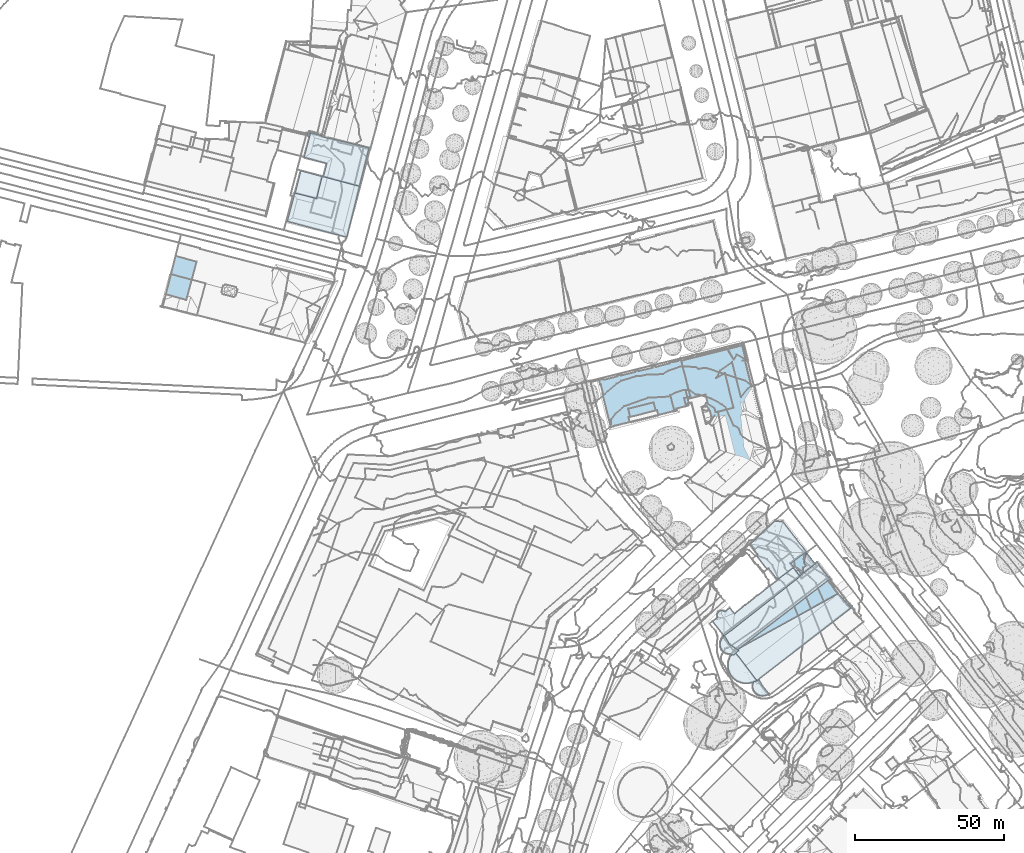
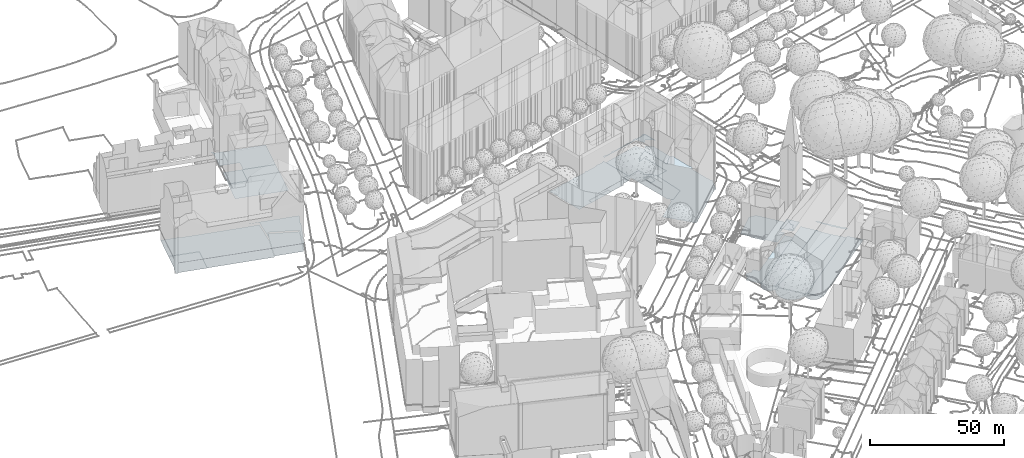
# Not in any storey, part 4 of 494: 9 footings.
"""IFC2X3 model written with IfcOpenShell, lengths in metres."""

from ifc_helpers import new_model, si_unit, frame, origin_with_axes, place, context, subcontext, project, faceted_brep, element, save


model = new_model("IFC2X3")

# Units and contexts
model_context = context("Model", 3, precision=1e-05, world=origin_with_axes())
body_context = subcontext(model_context, "Body", "Model", "MODEL_VIEW")
ifc_project = project(units=[si_unit("AREAUNIT", "SQUARE_METRE"), si_unit("LENGTHUNIT", "METRE")], contexts=[model_context])

# Footings
footing_1_placement = place(None, frame((124.1537320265, 278.7713160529, 533.7988), z_axis=(0.0, 0.0, 1.0), x_axis=(1.0, 0.0, 0.0)))
element("IfcFooting", 1, at=footing_1_placement, Name="Floor 0", PredefinedType="STRIP_FOOTING", context=body_context, shape_type="Brep", body=[
    faceted_brep([(25.8590000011, 22.1904000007, 0.0), (25.9250000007, 21.9228999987, 0.0), (25.3029999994, 21.7685999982, 0.0), (25.2870000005, 23.4228000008, 0.0), (25.5379999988, 23.4844000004, 0.0), (25.061999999, 21.7089999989, 0.0), (16.3480000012, 25.2978000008, 0.0), (25.1449999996, 21.3720999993, 0.0), (28.194000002, 11.5429999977, 0.0), (28.1480000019, 11.3887000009, 0.0), (28.050999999, 11.6074000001, 0.0), (26.3920000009, 5.4472999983, 0.0), (25.8729999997, 5.6015999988, 0.0), (26.4330000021, 5.5878999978, 0.0), (27.6420000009, 11.7881000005, 0.0), (27.6339999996, 11.817400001, 0.0), (27.1799999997, 13.1367000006, 0.0), (27.2969999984, 13.1669999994, 0.0), (24.6689000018, 4.6240999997, -0.0001), (11.6229999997, 11.0702999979, 0.0), (23.2699999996, 32.6308999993, 0.0), (22.3310000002, 32.4833999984, 0.0), (23.25, 32.7100000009, 0.0), (23.3920000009, 31.0936999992, 0.0), (23.6359999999, 31.1532999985, 0.0), (21.1400000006, 31.8506000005, 0.0), (18.7740000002, 28.9307000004, 0.0), (13.4299999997, 36.9188999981, 0.0), (15.8280000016, 40.6669999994, 0.0), (22.2650000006, 32.7509999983, 0.0), (11.8619999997, 37.8427999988, 0.0), (9.9919999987, 25.1123000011, 0.0), (8.3839999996, 24.2577999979, 0.0), (7.9239999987, 25.0429999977, 0.0), (10.324000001, 23.7841999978, 0.0), (9.8839999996, 22.6532999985, 0.0), (7.4180000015, 25.6347999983, 0.0), (10.4750000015, 35.365199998, 0.0), (6.8790000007, 25.9501999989, 0.0), (7.0700000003, 26.8691000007, 0.0), (6.3269999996, 25.8104999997, 0.0), (25.7080000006, 5.4492000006, 0.0), (25.6669000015, 5.4101999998, 0.0), (24.7369999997, 4.5517999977, 0.0), (10.3370000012, -8.6592000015, 0.0), (1.0989999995, 0.8583999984, 0.0), (7.9499999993, 7.192400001, 0.0), (10.4050000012, -8.7324000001, 0.0), (9.2769999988, -9.7675999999, 0.0), (9.0230000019, -9.4922000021, 0.0), (8.8770000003, -9.6279000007, 0.0), (0.0, 0.0, 0.0), (8.6400000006, 20.7793000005, 0.0), (8.8220000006, 21.4697000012, 0.0), (8.9629999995, 19.3300999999, 0.0), (7.7589999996, 20.1035000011, 0.0), (8.313000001, 20.2421999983, 0.0), (9.5139999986, 19.4697000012, 0.0), (8.6090000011, 23.3544999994, 0.0), (8.8500000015, 22.3935000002, 0.0), (0.4059999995, 0.371100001, 0.0), (1.0260000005, 0.9375, 0.0), (7.6840000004, 7.4794999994, 0.0), (25.7569999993, 5.4932000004, 0.0), (6.0500000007, 23.6708999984, 0.8999), (8.3839999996, 24.2577999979, 0.8999), (6.5179999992, 21.808600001, 0.8999), (8.8220000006, 21.4697000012, 0.8999), (6.7340000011, 20.9452999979, 0.8999), (5.8379999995, 24.5194999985, 0.8999), (8.8500000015, 22.3935000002, 0.8999), (8.6400000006, 20.7793000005, 0.8999), (6.8839999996, 20.3486000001, 0.8999)], [[[0, 1, 2]], [[0, 3, 4]], [[2, 5, 3]], [[5, 6, 3]], [[3, 0, 2]], [[7, 6, 5]], [[8, 9, 10]], [[11, 12, 13]], [[12, 9, 13]], [[9, 12, 14]], [[15, 16, 17]], [[10, 9, 14]], [[14, 18, 15]], [[15, 18, 16]], [[19, 6, 7]], [[7, 16, 19]], [[20, 21, 22]], [[23, 21, 20]], [[20, 24, 23]], [[21, 23, 25]], [[26, 27, 28]], [[29, 21, 25]], [[27, 30, 28]], [[26, 25, 23]], [[23, 3, 26]], [[31, 32, 33]], [[32, 31, 34]], [[6, 35, 34]], [[31, 33, 36]], [[37, 30, 27]], [[36, 38, 39]], [[38, 40, 39]], [[39, 31, 36]], [[26, 6, 27]], [[26, 3, 6]], [[14, 12, 41]], [[18, 14, 41]], [[42, 18, 41]], [[42, 43, 18]], [[18, 44, 19]], [[16, 18, 19]], [[44, 45, 46]], [[47, 48, 44]], [[45, 44, 49]], [[48, 49, 44]], [[49, 50, 51]], [[44, 46, 19]], [[35, 52, 53]], [[54, 55, 56]], [[57, 54, 56]], [[57, 56, 35]], [[34, 35, 58]], [[58, 32, 34]], [[58, 35, 59]], [[53, 59, 35]], [[57, 35, 6]], [[51, 60, 45]], [[45, 49, 51]], [[60, 61, 45]], [[46, 62, 19]], [[57, 6, 19]], [[41, 12, 63]], [[64, 65, 66]], [[66, 67, 68]], [[69, 65, 64]], [[66, 70, 67]], [[71, 72, 68]], [[67, 71, 68]], [[66, 65, 70]]]),
])
footing_2_placement = place(None, frame((124.1537320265, 278.7713160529, 533.7988), z_axis=(0.0, 0.0, 1.0), x_axis=(1.0, 0.0, 0.0)))
element("IfcFooting", 2, at=footing_2_placement, Name="Floor 1", PredefinedType="STRIP_FOOTING", context=body_context, shape_type="Brep", body=[
    faceted_brep([(1.9149999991, 28.5234000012, 0.6939), (0.9149999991, 26.6933000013, 0.6939), (1.7730000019, 29.0907999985, 0.6939), (2.381000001, 26.3975000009, 0.6939), (7.0700000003, 26.8691000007, 0.6939), (6.9270000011, 29.7802999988, 0.6939), (2.1279999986, 26.995099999, 0.6939), (-0.2919999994, 28.5762000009, 0.6939), (0.3469999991, 25.9521000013, 0.6939), (2.2820000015, 26.375, 0.6939), (1.0610000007, 26.1083999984, 0.6939), (13.8410000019, 10.6182000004, 0.6939), (8.6559999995, 6.8436999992, 0.6939), (10.324000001, 23.7841999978, 0.6939), (11.068, 23.9716999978, 0.6939), (9.9919999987, 25.1123000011, 0.6939), (6.9510000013, 8.4501999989, 0.6939), (7.5890000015, 27.1444999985, 0.6939), (-1.2520000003, 41.1444999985, 0.0), (11.8619999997, 37.8427999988, 0.0), (-0.1460000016, 36.7382999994, 0.0), (10.4750000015, 35.365199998, 0.0), (0.3049999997, 34.9404000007, 0.0), (0.7890000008, 33.0155999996, 0.0), (16.3480000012, 25.2978000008, 0.0), (13.4299999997, 36.9188999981, 0.0), (6.9270000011, 29.7802999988, 0.0), (14.4530000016, 45.0848999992, 0.0), (1.9149999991, 28.5234000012, 0.0), (7.5890000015, 27.1444999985, 0.0), (9.9919999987, 25.1123000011, 0.0), (10.324000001, 23.7841999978, 0.0), (7.0700000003, 26.8691000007, 0.0), (16.3949999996, 41.6054999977, 0.0), (15.8280000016, 40.6669999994, 0.0), (20.1909999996, 41.1473999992, 0.0), (20.4450000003, 41.4248000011, 0.0), (17.379999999, 43.2344000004, 0.0), (20.4959999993, 41.2225999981, 0.0), (22.2650000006, 32.7509999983, 0.0), (21.1400000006, 31.8506000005, 0.0), (18.7740000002, 28.9307000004, 0.0), (-8.9820000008, 22.9013999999, 0.617), (-19.0229999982, 22.1044999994, 0.617), (-9.3900000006, 24.5234000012, 0.617), (-18.6209999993, 20.5, 0.617), (1.0610000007, 26.1083999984, 0.7269), (1.0769999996, 26.0429999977, 0.7269), (0.3469999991, 25.9521000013, 0.7269), (-10.9860000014, 38.7802999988, 0.727), (-9.824000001, 39.0683000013, 0.727), (0.3049999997, 34.9404000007, 0.727), (0.7890000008, 33.0155999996, 0.7269), (-9.3900000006, 24.5234000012, 0.7269), (-0.1460000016, 36.7382999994, 0.727), (1.7730000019, 29.0907999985, 0.7269), (-0.2919999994, 28.5762000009, 0.7269), (-2.8480000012, 25.066399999, 0.7269), (-2.6730000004, 24.3612999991, 0.7269), (-2.9160000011, 24.3007999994, 0.7269), (-2.7980000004, 24.8671999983, 0.7269), (-3.8979999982, 24.1669999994, 0.7269), (-3.8720000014, 24.0625, 0.7269), (-4.0729999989, 24.123999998, 0.7269), (-1.5139999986, 41.4393999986, 0.727), (-1.4560000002, 41.9580000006, 0.727), (-1.2520000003, 41.1444999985, 0.727), (-2.2930000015, 41.0927999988, 0.727), (-2.3289999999, 41.2373000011, 0.727), (-4.0610000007, 40.6523000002, 0.727), (-1.6319999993, 41.9140999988, 0.727), (-4.8819999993, 40.6035000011, 0.727), (-4.0969999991, 40.7987999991, 0.727), (-5.2210000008, 40.4257999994, 0.727), (-5.1710000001, 40.2225999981, 0.727), (-5.9979999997, 40.0175999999, 0.727), (-5.2430000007, 40.5137000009, 0.727), (-11.0590000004, 39.0742000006, 0.727), (-9.8969999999, 39.3612999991, 0.727), (-8.9820000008, 22.9013999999, 0.7269), (-7.6090000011, 23.2432000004, 0.7269), (-27.5639999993, 30.0927999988, 0.727), (-16.8049999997, 37.3359000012, 0.727), (-26.1889999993, 23.7313999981, 0.727), (-19.0229999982, 22.1044999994, 0.727), (-23.8280000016, 19.2030999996, 0.727), (-18.6209999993, 20.5, 0.727), (-28.324000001, 33.1493999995, 0.727), (-22.6259999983, 35.8925999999, 0.727), (-23.8049999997, 19.1112999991, 0.727), (-24.9690000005, 18.8213, 0.727), (-27.7569999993, 30.0438999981, 0.727), (-28.5179999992, 33.1015999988, 0.727), (-28.9010000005, 34.6444999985, 0.727), (-16.8770000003, 37.6268999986, 0.727), (-15.6409999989, 37.625, 0.727), (-15.7129999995, 37.9169999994, 0.727), (-22.6979999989, 36.1816000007, 0.727), (-21.5329999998, 36.4686999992, 0.727), (-21.4620000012, 36.1816000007, 0.727), (-27.3579999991, 35.0273000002, 0.727), (-27.2859999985, 34.7362999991, 0.727), (19.5450000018, 46.8827999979, 2.6808), (20.9189999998, 41.3271000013, 2.6808), (19.2250000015, 46.2841999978, 2.6808), (20.4959999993, 41.2225999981, 2.6808), (20.4459999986, 41.4248000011, 2.6808), (19.251000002, 46.7763999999, 2.6808), (17.9189999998, 46.4452999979, 2.6808), (14.4530000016, 45.0850000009, 2.6808), (15.6339999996, 45.8759999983, 2.6808), (17.8390000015, 46.7655999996, 2.6808), (19.1710000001, 47.0966999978, 2.6808), (14.9770000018, 46.052699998, 2.6808), (15.057, 45.7324000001, 2.6808), (13.7170000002, 45.3984000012, 2.6808), (8.0800000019, 43.9941000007, 2.6808), (-1.2520000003, 41.1444999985, 2.6808), (-0.175999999, 41.8641999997, 2.6808), (2.6660000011, 42.5731999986, 2.6808), (3.9910000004, 42.9756000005, 2.6808), (2.569000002, 42.9609000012, 2.6808), (-1.4560000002, 41.9580000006, 2.6808), (3.7679999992, 43.2606999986, 2.6808), (3.9149999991, 43.2969000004, 2.6808), (-0.2729999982, 42.2518999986, 2.6808), (13.6380000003, 45.7177999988, 2.6808), (19.2250000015, 46.2841999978, 2.8947), (17.379999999, 43.2344000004, 2.8947), (14.4530000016, 45.0850000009, 2.8947), (20.4450000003, 41.4248000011, 2.8947), (16.3949999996, 41.6054999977, 2.8947)], [[[0, 1, 2]], [[3, 0, 4]], [[5, 4, 0]], [[0, 3, 6]], [[1, 7, 2]], [[0, 6, 1]], [[1, 8, 7]], [[3, 9, 6]], [[1, 10, 8]], [[11, 12, 13]], [[13, 14, 11]], [[4, 15, 13]], [[16, 3, 4]], [[5, 17, 4]], [[16, 4, 13]], [[16, 13, 12]], [[18, 19, 20]], [[20, 21, 22]], [[21, 23, 22]], [[20, 19, 21]], [[24, 21, 25]], [[21, 26, 23]], [[27, 19, 18]], [[28, 23, 26]], [[29, 26, 30]], [[31, 30, 24]], [[32, 29, 30]], [[30, 26, 21]], [[33, 34, 27]], [[33, 35, 34]], [[36, 35, 37]], [[36, 38, 35]], [[35, 33, 37]], [[35, 39, 34]], [[21, 24, 30]], [[34, 40, 41]], [[34, 39, 40]], [[19, 27, 34]], [[42, 43, 44]], [[43, 42, 45]], [[46, 47, 48]], [[49, 50, 51]], [[51, 52, 53]], [[51, 50, 54]], [[55, 56, 52]], [[57, 56, 48]], [[58, 59, 60]], [[61, 59, 62]], [[59, 61, 60]], [[48, 47, 57]], [[61, 57, 60]], [[63, 57, 61]], [[57, 53, 56]], [[53, 52, 56]], [[64, 65, 66]], [[66, 67, 64]], [[67, 68, 64]], [[66, 54, 67]], [[67, 54, 69]], [[64, 70, 65]], [[71, 72, 69]], [[73, 71, 74]], [[54, 74, 69]], [[74, 54, 75]], [[71, 73, 76]], [[77, 78, 49]], [[78, 50, 49]], [[71, 69, 74]], [[50, 75, 54]], [[57, 63, 53]], [[79, 53, 80]], [[81, 82, 83]], [[84, 83, 53]], [[83, 84, 85]], [[85, 84, 86]], [[81, 87, 88]], [[89, 90, 85]], [[51, 53, 49]], [[91, 81, 83]], [[53, 83, 82]], [[85, 90, 83]], [[92, 93, 87]], [[82, 94, 95]], [[49, 53, 95]], [[95, 53, 82]], [[95, 94, 96]], [[88, 97, 98]], [[82, 81, 99]], [[99, 81, 88]], [[93, 100, 101]], [[87, 93, 101]], [[98, 99, 88]], [[101, 88, 87]], [[63, 80, 53]], [[102, 103, 104]], [[103, 105, 106]], [[104, 107, 102]], [[104, 108, 107]], [[104, 103, 106]], [[104, 109, 110]], [[108, 111, 112]], [[104, 110, 108]], [[113, 114, 115]], [[114, 110, 109]], [[108, 112, 107]], [[109, 115, 114]], [[109, 116, 115]], [[117, 118, 119]], [[120, 116, 117]], [[121, 120, 119]], [[122, 118, 117]], [[116, 109, 117]], [[117, 119, 120]], [[120, 123, 124]], [[123, 120, 121]], [[122, 125, 118]], [[126, 113, 115]], [[127, 128, 129]], [[128, 127, 130]], [[131, 129, 128]]]),
])
footing_3_placement = place(None, frame((140.4987320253, 222.5740160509, 530.262), z_axis=(0.0, 0.0, 1.0), x_axis=(1.0, 0.0, 0.0)))
element("IfcFooting", 3, at=footing_3_placement, Name="Floor 0", PredefinedType="STRIP_FOOTING", context=body_context, shape_type="Brep", body=[
    faceted_brep([(39.126000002, 14.129900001, 3.8746), (35.2050000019, 19.0742000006, 3.8747), (39.6210000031, 14.514700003, 3.8746), (34.995000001, 18.9590000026, 3.8747), (39.5310000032, 14.629900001, 3.8746), (38.8949999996, 15.5996000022, 3.8746), (39.768000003, 14.813500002, 3.8746), (39.0520000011, 15.7217000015, 3.8746), (36.8370000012, 18.2471000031, 3.8746), (31.4519999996, 24.2569000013, 3.8747), (35.7479999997, 19.6465000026, 3.8747), (31.9360000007, 24.3955000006, 3.8747), (32.7230000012, 23.5371000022, 3.8747), (31.819000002, 24.5469000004, 3.8747), (32.8729999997, 23.5479000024, 3.8747), (32.1730000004, 24.5800999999, 3.8747), (32.8890000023, 23.6660000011, 3.8747), (7.8670000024, -10.1659999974, 0.429), (11.6030000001, -14.7704999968, 0.429), (11.4979999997, -14.8368999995, 0.429), (36.9150000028, 4.3360000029, 0.429), (39.6210000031, 14.514700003, 0.429), (11.9299999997, -15.186499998, 0.429), (42.7200000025, 10.5293000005, 0.429), (39.4400000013, 6.2402999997, 0.429), (42.7580000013, 10.558600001, 0.429), (43.5930000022, 9.4844000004, 0.429), (36.9480000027, 4.2939999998, 0.429), (35.2050000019, 19.0742000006, 0.0), (0.0, 0.0, 0.0), (31.4519999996, 24.2569000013, 0.0), (0.2019999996, -0.2938999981, 0.0)], [[[0, 1, 2]], [[1, 0, 3]], [[1, 4, 2]], [[4, 5, 6]], [[7, 6, 5]], [[4, 1, 5]], [[8, 5, 1]], [[9, 8, 1]], [[10, 11, 12]], [[10, 9, 11]], [[13, 11, 9]], [[8, 9, 10]], [[14, 15, 16]], [[15, 14, 11]], [[11, 14, 12]], [[17, 18, 19]], [[17, 20, 18]], [[17, 21, 20]], [[18, 20, 22]], [[23, 24, 20]], [[21, 23, 20]], [[23, 25, 26]], [[27, 20, 24]], [[24, 23, 26]], [[28, 29, 30]], [[29, 28, 31]]]),
])
footing_4_placement = place(None, frame((140.4987320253, 222.5740160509, 530.262), z_axis=(0.0, 0.0, 1.0), x_axis=(1.0, 0.0, 0.0)))
element("IfcFooting", 4, at=footing_4_placement, Name="Floor 1", PredefinedType="STRIP_FOOTING", context=body_context, shape_type="Brep", body=[
    faceted_brep([(21.7540000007, 27.0976999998, 2.3338), (20.0500000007, 27.7920000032, 2.3338), (23.7030000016, 29.4199000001, 2.3338), (20.9180000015, 26.6152999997, 2.3338), (23.432, 27.7998000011, 2.3338), (23.0050000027, 25.1494000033, 2.3338), (18.9100000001, 29.2725000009, 2.3338), (21.6850000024, 31.3408000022, 2.3338), (24.1420000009, 33.2149000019, 2.3338), (24.0830000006, 32.1660000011, 2.3338), (24.3619999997, 28.4013999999, 2.3338)], [[[0, 1, 2]], [[1, 0, 3]], [[0, 4, 5]], [[6, 7, 1]], [[8, 9, 7]], [[9, 2, 7]], [[2, 10, 4]], [[0, 2, 4]], [[1, 7, 2]]]),
])
footing_5_placement = place(None, frame((140.4987320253, 222.5740160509, 530.262), z_axis=(0.0, 0.0, 1.0), x_axis=(1.0, 0.0, 0.0)))
element("IfcFooting", 5, at=footing_5_placement, Name="Floor 2", PredefinedType="STRIP_FOOTING", context=body_context, shape_type="Brep", body=[
    faceted_brep([(-3.3949999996, 4.9356000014, -0.2049), (-3.7390000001, 4.942400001, -0.2049), (-3.5359999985, 5.1006000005, -0.2049), (-3.5769999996, 4.7295000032, -0.2049), (-4.2949999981, 13.3379000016, -0.4029), (-4.1569999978, 13.3564999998, -0.4029), (-4.5709999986, 13.2617000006, -0.4029), (-3.1429999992, 13.1064999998, -0.4029), (-4.8289999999, 13.1387000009, -0.4029), (-4.9489999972, 13.0606000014, -0.4029), (-5.1649999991, 12.876000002, -0.4029), (-2.9589999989, 12.9776000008, -0.4029), (-5.3439999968, 12.6543000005, -0.4029), (-3.4499999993, 13.264700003, -0.4029), (-3.7259999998, 13.3388999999, -0.4029), (-3.867999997, 13.3574000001, -0.4029), (-3.0719999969, 13.0654000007, -0.4029), (-3.3189999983, 13.2100000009, -0.4029), (-5.481999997, 12.4063000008, -0.4029), (-5.5749999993, 12.1377000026, -0.4029), (-5.6030000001, 11.9990000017, -0.4029), (-5.5899999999, 11.4317000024, -0.4029), (-5.6209999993, 11.7149000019, -0.4029), (-7.0779999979, 9.7627000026, -0.4029), (-6.754999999, 10.014700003, -0.4029), (-3.4619999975, 5.1582000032, -0.4029), (-0.4969999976, 6.879900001, -0.4029), (-5.5099999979, 11.1631000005, -0.4029), (-5.4509999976, 11.0293000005, -0.4029), (-3.3019999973, 4.827200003, -0.4029), (-3.5359999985, 5.1006000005, -0.4029), (0.2540000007, 12.25, -0.4029), (11.8090000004, 21.4649000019, -0.4029), (11.9050000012, 21.5410000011, -0.4029), (11.9660000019, 21.4610000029, -0.4029), (11.1050000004, 20.7901000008, -0.4029), (22.2920000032, 24.8496000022, -0.4029), (11.0439999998, 20.8692000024, -0.4029), (13.7039999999, 22.8115999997, -0.4029), (20.9180000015, 26.6152999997, -0.4029), (14.9360000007, 23.9287, -0.4029), (20.0500000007, 27.7920000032, -0.4029), (15.0130000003, 23.8300999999, -0.4029), (21.9850000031, 25.2393000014, -0.4029), (14.5340000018, 23.4571000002, -0.4029), (-1.3159999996, 14.259800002, -0.4029), (2.9210000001, 14.5518000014, -0.4029), (3.8509999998, 15.1485000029, -0.4029), (2.9820000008, 14.4726999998, -0.4029), (7.9079999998, 18.3037, -0.4029), (6.9860000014, 17.7129000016, -0.4029), (7.8470000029, 18.3828000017, -0.4029), (3.7900000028, 15.2276000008, -0.4029), (7.0470000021, 17.6338, -0.4029), (6.3340000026, -12.1571999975, 0.293), (6.3399999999, -11.8622999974, 0.293), (9.7930000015, -12.1805999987, 0.293), (6.3550000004, -12.4530999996, 0.293), (6.3720000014, -11.5682999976, 0.293), (7.7970000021, -10.2206999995, 0.293), (6.3770000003, -10.8213, 0.293), (6.8049999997, -10.5751999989, 0.293), (6.5150000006, -10.994099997, 0.293), (6.4800000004, -11.1141999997, 0.293), (6.4310000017, -11.2782999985, 0.293), (6.4010000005, -12.745099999, 0.293), (6.4740000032, -13.0321999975, 0.293), (6.6950000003, -13.5800999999, 0.293), (6.5720000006, -13.3125, 0.293), (6.8399999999, -13.8270999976, 0.293), (7.006000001, -14.0604999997, 0.293), (7.393000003, -14.4813999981, 0.293), (7.189000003, -14.2782999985, 0.293), (7.6119999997, -14.6659999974, 0.293), (7.8450000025, -14.8310000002, 0.293), (8.0910000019, -14.9755999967, 0.293), (7.8960000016, -10.1444999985, 0.293), (8.5170000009, -9.8983999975, 0.293), (11.8830000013, -14.6844999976, 0.293), (11.6030000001, -14.7704999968, 0.293), (11.6520000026, -14.8329999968, 0.293), (11.3650000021, -14.9218999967, 0.293), (11.1150000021, -15.0537, 0.293), (8.3500000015, -15.1005999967, 0.293), (10.8540000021, -15.1620999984, 0.293), (8.8940000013, -15.2792999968, 0.293), (8.6180000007, -15.2010999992, 0.293), (9.1760000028, -15.3339999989, 0.293), (9.4590000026, -15.3641999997, 0.293), (10.5860000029, -15.248999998, 0.293), (10.3100000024, -15.3134999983, 0.293), (10.0310000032, -15.3534999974, 0.293), (9.745000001, -15.3710999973, 0.293), (0.0890000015, -1.5282999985, -0.071), (-1.129999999, -1.9960999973, -0.071), (-0.8789999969, -1.6014999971, -0.071), (-1.3759999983, -2.4696999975, -0.071), (-1.7399999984, -3.4706999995, -0.071), (-1.5799999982, -2.9618999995, -0.071), (0.7220000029, -0.9667999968, -0.071), (3.9820000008, -5.1805999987, -0.071), (-1.8550000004, -3.9912, -0.071), (-1.9239999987, -4.5194999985, -0.071), (-1.9469999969, -5.052699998, -0.071), (-1.9230000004, -5.5917999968, -0.071), (-1.8530000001, -6.1132999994, -0.071), (-1.5759999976, -7.1425999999, -0.071), (-1.7369999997, -6.6347000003, -0.071), (-1.125, -8.1074000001, -0.071), (-1.3719999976, -7.6356999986, -0.071), (-0.8359999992, -8.5604999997, -0.071), (-0.5079999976, -8.9862999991, -0.071), (4.7600000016, -11.125, -0.071), (5.2920000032, -11.0497999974, -0.071), (4.2240000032, -11.1552999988, -0.071), (3.6860000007, -11.1376999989, -0.071), (5.8150000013, -10.9266999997, -0.071), (6.3260000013, -10.7567999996, -0.071), (6.8049999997, -10.5751999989, -0.071), (6.3770000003, -10.8213, -0.071), (3.4260000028, -11.1053999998, -0.071), (1.137000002, -10.3553999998, -0.071), (0.682, -10.0682999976, -0.071), (-0.1429999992, -9.3807999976, -0.071), (0.2540000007, -9.7430999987, -0.071), (-0.379999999, -9.123999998, -0.071), (3.1530000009, -11.0722000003, -0.071), (2.6270000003, -10.9598999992, -0.071), (2.1130000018, -10.802699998, -0.071), (1.6150000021, -10.6005999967, -0.071), (1.2790000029, -10.4287, -0.071), (7.7970000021, -10.2206999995, -0.071), (31.9360000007, 24.3955000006, -0.2049), (32.1730000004, 24.5800999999, -0.2049), (32.5240000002, 24.1319000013, -0.2049), (1.2910000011, 0.1485000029, -0.2049), (28.7090000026, 28.7207000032, -0.2049), (28.6240000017, 28.6543000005, -0.2049), (28.0470000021, 29.5752000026, -0.2049), (22.2920000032, 24.8496000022, -0.2049), (-1.4419999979, 2.0196000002, -0.2049), (22.1420000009, 25.0410000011, -0.2049), (-0.4969999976, 6.879900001, -0.2049), (-3.1359999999, 4.9483000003, -0.2049), (-4.0039999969, 3.8721000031, -0.3169), (-1.4419999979, 2.0196000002, -0.3169), (-4.1609999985, 3.626000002, -0.3169), (-4.4069999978, 3.0957000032, -0.3169), (-4.2960000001, 3.3662, -0.3169), (-3.3949999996, 4.9356000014, -0.3169), (-3.3019999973, 4.827200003, -0.3169), (-3.5769999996, 4.7295000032, -0.3169), (-3.1359999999, 4.9483000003, -0.3169), (-3.4129999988, 4.5137000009, -0.3169), (-3.6289999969, 4.317400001, -0.3169), (-3.8259999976, 4.1026000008, -0.3169), (-4.493999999, 2.817400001, -0.3169), (-4.555999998, 2.5323000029, -0.3169), (-4.5929999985, 2.2442000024, -0.3169), (-4.5889999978, 1.6612000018, -0.3169), (-4.6039999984, 1.9502000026, -0.3169), (-4.5480000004, 1.3721000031, -0.3169), (-4.3919999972, 0.8096000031, -0.3169), (-4.481999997, 1.0869000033, -0.3169), (-4.2769999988, 0.5420000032, -0.3169), (-1.4560000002, -1.3222000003, -0.3169), (-1.6059999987, -1.3153999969, -0.3169), (-1.3229999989, -1.3290999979, -0.3169), (-4.1429999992, 0.2920000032, -0.3169), (-4.1679999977, 0.3388999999, -0.3169), (-3.987999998, 0.0547000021, -0.3169), (-1.8869999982, -1.2762999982, -0.3169), (1.6780000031, -0.1162, -0.3169), (0.0890000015, -1.5282999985, -0.3169), (-1.0399999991, -1.3192999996, -0.3169), (-0.8439999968, -1.5458999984, -0.3169), (-0.8789999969, -1.6014999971, -0.3169), (-3.6209999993, -0.3759999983, -0.3169), (-3.8139999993, -0.1678999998, -0.3169), (-3.4109999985, -0.566399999, -0.3169), (-3.5419999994, -0.4472000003, -0.3169), (-3.185999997, -0.7372999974, -0.3169), (-2.1629999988, -1.2137999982, -0.3169), (-2.4329999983, -1.1278999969, -0.3169), (-2.6959999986, -1.0194999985, -0.3169), (-2.9459999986, -0.8895999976, -0.3169), (1.2910000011, 0.1485000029, 0.0), (2.0380000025, 0.7217000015, 0.0), (1.6780000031, -0.1162, 0.0), (0.7220000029, -0.9667999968, 0.0), (3.9820000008, -5.1805999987, 0.0), (35.2050000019, 19.0742000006, 0.0), (39.4150000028, 14.1826000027, 0.0), (7.7970000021, -10.2206999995, 0.0), (21.7540000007, 27.0976999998, 2.3338), (21.9850000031, 25.2393000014, 2.3338), (20.9180000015, 26.6152999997, 2.3338), (22.7670000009, 25.5205000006, 2.3338), (22.1420000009, 25.0410000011, 2.3338), (23.432, 27.7998000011, 2.3338), (24.3619999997, 28.4013999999, 2.3338), (23.1070000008, 25.7813000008, 2.3338), (23.7030000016, 29.4199000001, 2.3338), (26.1229999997, 30.6055000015, 2.3338), (27.4000000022, 29.0791000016, 2.3338), (24.1420000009, 33.2149000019, 2.3338), (24.0830000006, 32.1660000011, 2.3338)], [[[0, 1, 2]], [[1, 0, 3]], [[4, 5, 6]], [[6, 7, 8]], [[9, 7, 10]], [[8, 7, 9]], [[10, 11, 12]], [[5, 13, 6]], [[14, 5, 15]], [[5, 14, 13]], [[7, 6, 13]], [[10, 7, 11]], [[11, 7, 16]], [[13, 17, 7]], [[11, 18, 12]], [[19, 11, 20]], [[11, 21, 22]], [[23, 24, 25]], [[25, 24, 26]], [[11, 19, 18]], [[21, 11, 27]], [[22, 20, 11]], [[24, 28, 26]], [[29, 30, 25]], [[28, 27, 11]], [[26, 29, 25]], [[28, 11, 31]], [[32, 33, 34]], [[35, 34, 36]], [[37, 32, 35]], [[34, 35, 32]], [[38, 36, 34]], [[39, 40, 41]], [[36, 42, 43]], [[43, 42, 39]], [[40, 39, 42]], [[36, 44, 42]], [[38, 44, 36]], [[11, 45, 31]], [[46, 47, 48]], [[26, 28, 31]], [[31, 48, 26]], [[47, 26, 48]], [[49, 50, 51]], [[49, 35, 36]], [[47, 46, 52]], [[50, 49, 53]], [[53, 26, 47]], [[49, 26, 53]], [[26, 49, 36]], [[54, 55, 56]], [[57, 54, 56]], [[55, 58, 59]], [[60, 61, 62]], [[61, 59, 63]], [[62, 61, 63]], [[63, 59, 64]], [[58, 64, 59]], [[57, 56, 65]], [[65, 56, 66]], [[56, 67, 68]], [[56, 68, 66]], [[69, 67, 56]], [[70, 69, 56]], [[56, 71, 72]], [[70, 56, 72]], [[73, 71, 56]], [[56, 55, 59]], [[56, 74, 73]], [[56, 75, 74]], [[56, 76, 77]], [[59, 76, 56]], [[78, 79, 56]], [[78, 80, 79]], [[79, 81, 56]], [[82, 56, 81]], [[56, 83, 75]], [[56, 82, 84]], [[85, 86, 56]], [[83, 56, 86]], [[87, 85, 56]], [[56, 88, 87]], [[89, 90, 56]], [[91, 92, 56]], [[56, 92, 88]], [[90, 91, 56]], [[89, 56, 84]], [[93, 94, 95]], [[94, 93, 96]], [[93, 97, 98]], [[93, 99, 100]], [[93, 100, 101]], [[98, 96, 93]], [[101, 97, 93]], [[102, 101, 100]], [[100, 103, 102]], [[104, 103, 100]], [[100, 105, 104]], [[106, 107, 100]], [[100, 107, 105]], [[108, 109, 100]], [[106, 100, 109]], [[108, 100, 110]], [[111, 110, 100]], [[112, 100, 113]], [[114, 115, 100]], [[112, 114, 100]], [[113, 100, 116]], [[116, 100, 117]], [[117, 118, 119]], [[100, 118, 117]], [[120, 100, 115]], [[100, 121, 122]], [[123, 100, 124]], [[100, 122, 124]], [[100, 123, 125]], [[100, 125, 111]], [[126, 127, 100]], [[128, 100, 127]], [[129, 130, 100]], [[128, 129, 100]], [[130, 121, 100]], [[100, 120, 126]], [[100, 131, 118]], [[132, 133, 134]], [[134, 135, 132]], [[136, 137, 138]], [[139, 132, 140]], [[132, 135, 140]], [[139, 137, 132]], [[138, 139, 141]], [[142, 140, 143]], [[140, 142, 139]], [[138, 137, 139]], [[144, 145, 146]], [[147, 148, 145]], [[149, 150, 151]], [[152, 153, 150]], [[145, 154, 153]], [[154, 145, 155]], [[145, 148, 146]], [[145, 144, 155]], [[150, 153, 151]], [[145, 156, 147]], [[145, 157, 156]], [[158, 157, 145]], [[159, 160, 145]], [[160, 158, 145]], [[161, 159, 145]], [[145, 162, 163]], [[145, 163, 161]], [[145, 164, 162]], [[152, 145, 153]], [[165, 166, 145]], [[145, 167, 165]], [[168, 169, 145]], [[168, 145, 170]], [[145, 166, 171]], [[169, 164, 145]], [[172, 173, 174]], [[167, 145, 174]], [[173, 175, 174]], [[175, 173, 176]], [[145, 172, 174]], [[177, 178, 145]], [[170, 145, 178]], [[179, 180, 145]], [[145, 181, 179]], [[177, 145, 180]], [[182, 183, 145]], [[184, 185, 145]], [[145, 185, 181]], [[145, 183, 184]], [[145, 171, 182]], [[186, 187, 188]], [[189, 188, 190]], [[191, 190, 188]], [[192, 190, 191]], [[190, 192, 193]], [[187, 191, 188]], [[194, 195, 196]], [[194, 197, 195]], [[198, 195, 197]], [[199, 200, 201]], [[202, 203, 200]], [[200, 204, 201]], [[205, 203, 206]], [[200, 203, 204]], [[202, 206, 203]]]),
])
footing_6_placement = place(None, frame((145.991732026, 258.2215160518, 530.886), z_axis=(0.0, 0.0, 1.0), x_axis=(1.0, 0.0, 0.0)))
element("IfcFooting", 6, at=footing_6_placement, Name="Floor 0", PredefinedType="STRIP_FOOTING", context=body_context, shape_type="Brep", body=[
    faceted_brep([(2.1710000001, -3.7373000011, 0.0), (2.5810000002, -3.4189999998, 0.0), (6.2320000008, -8.120099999, 0.0), (5.7950000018, -8.4600000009, 0.0), (13.7109999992, -6.4257999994, 0.0), (0.2950000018, -0.3125, 0.0), (0.2190000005, -0.3838, 0.0), (7.8339999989, 7.3916000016, 0.0), (14.557, -7.8554999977, 0.0), (9.1539999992, -11.3466999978, 0.0), (8.8980000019, -11.5449000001, 0.0), (14.8000000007, -7.7851999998, 0.0), (9.443, -11.7188000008, 0.0), (0.0, 0.0, 0.0), (8.3960000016, 7.9209000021, 0.0), (8.5329999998, 7.7754000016, 0.0), (11.4350000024, 7.0879000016, 0.0), (10.9620000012, 7.6942999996, 0.0), (10.8040000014, 7.5713, 0.0), (15.5980000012, 1.746100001, 0.0), (18.5789999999, -2.7753999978, 0.0), (19.1130000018, -3.3955000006, 0.0), (18.9869999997, -3.5205000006, 0.0), (18.7769999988, -2.9628999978, 0.0), (19.0830000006, -2.7245999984, 0.0)], [[[0, 1, 2]], [[2, 3, 0]], [[4, 2, 1]], [[5, 1, 6]], [[7, 1, 5]], [[4, 8, 9]], [[4, 9, 10]], [[4, 10, 2]], [[4, 11, 8]], [[12, 9, 8]], [[13, 7, 5]], [[14, 15, 7]], [[7, 15, 16]], [[17, 16, 18]], [[15, 18, 16]], [[4, 19, 20]], [[21, 22, 23]], [[20, 23, 22]], [[19, 24, 20]], [[20, 24, 23]], [[19, 4, 1]], [[16, 19, 7]], [[1, 7, 19]]]),
])
footing_7_placement = place(None, frame((-52.3232679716, 338.0819160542, 533.653), z_axis=(0.0, 0.0, 1.0), x_axis=(1.0, 0.0, 0.0)))
element("IfcFooting", 7, at=footing_7_placement, Name="Floor 0", PredefinedType="STRIP_FOOTING", context=body_context, shape_type="Brep", body=[
    faceted_brep([(3.5389999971, 10.9090999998, 0.0), (15.1349999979, 7.8338999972, 0.0), (8.7599999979, -1.9669000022, 0.0), (1.1609999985, 2.6434999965, 0.0), (1.4229999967, 2.5770999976, 0.0), (0.5379999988, 0.1307999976, 0.0), (5.3329999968, -1.0928000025, 0.0), (12.2969999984, -2.8692000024, 0.0), (1.2449999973, -0.0499000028, 0.0), (1.2339999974, -0.3331000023, 0.0), (0.0659999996, 0.2469999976, 0.0), (0.0, -0.0001000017, 0.0), (48.6349999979, -12.1417000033, 1.1769), (53.7879999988, -0.2413000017, 1.1769), (50.5529999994, -8.4932000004, 1.1769), (50.8229999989, -8.6231000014, 1.1769), (48.7039999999, -12.1592000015, 1.1769), (48.8029999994, -12.1846000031, 1.1769), (58.3829999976, 8.1268999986, 1.1769), (56.3909999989, 3.8485999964, 1.1769), (43.2639999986, 11.7244999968, 1.1769), (58.4109999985, 8.120099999, 1.1769), (55.1939999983, 0.6405999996, 1.1769), (56.6509999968, 3.7284999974, 1.1769), (42.8319999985, 4.5037999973, 1.1769), (41.3399999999, 0.8846999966, 0.5519), (42.2589999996, -10.5167000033, 0.5519), (37.7029999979, -9.3536000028, 0.5519), (48.6349999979, -12.1417000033, 0.5519), (53.7879999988, -0.2413000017, 0.5519), (42.8319999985, 4.5037999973, 0.5519), (41.4179999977, 1.3250999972, 0.5519), (39.0429999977, 12.7547999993, 0.051), (41.3399999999, 0.8846999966, 0.051), (13.2869999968, 19.3934999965, 0.051), (15.1349999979, 7.8338999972, 0.051), (43.2639999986, 11.7244999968, 0.051), (39.0649999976, 12.8387999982, 0.051), (37.7029999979, -9.3536000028, 0.051), (12.2960000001, -2.8712000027, 0.051), (3.5389999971, 10.9090999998, 0.051), (8.5859999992, 20.9032999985, 0.051), (10.4239999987, 20.4334999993, 0.051), (13.3539999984, 19.6571999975, 0.051), (6.2289999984, 21.5037999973, 0.051), (39.5859999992, 12.9266999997, 1.1769), (39.0649999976, 12.8387999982, 1.1769), (39.117999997, 13.0457999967, 1.1769), (41.4179999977, 1.3250999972, 1.1769)], [[[0, 1, 2]], [[3, 4, 5]], [[0, 6, 4]], [[1, 7, 2]], [[4, 6, 8]], [[4, 8, 5]], [[9, 5, 8]], [[10, 5, 11]], [[11, 5, 9]], [[0, 2, 6]], [[12, 13, 14]], [[15, 14, 13]], [[12, 14, 16]], [[17, 16, 14]], [[18, 19, 20]], [[18, 21, 19]], [[22, 15, 13]], [[20, 22, 13]], [[20, 19, 22]], [[23, 22, 19]], [[13, 24, 20]], [[25, 26, 27]], [[28, 26, 29]], [[25, 30, 26]], [[30, 29, 26]], [[25, 31, 30]], [[32, 33, 34]], [[34, 33, 35]], [[32, 36, 33]], [[37, 36, 32]], [[38, 35, 33]], [[39, 35, 38]], [[35, 40, 41]], [[34, 42, 43]], [[42, 34, 35]], [[41, 42, 35]], [[44, 41, 40]], [[45, 46, 47]], [[46, 45, 20]], [[20, 24, 48]], [[18, 20, 45]]]),
])
footing_8_placement = place(None, frame((-4.0472679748, 388.3377160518, 535.5509), z_axis=(0.0, 0.0, 1.0), x_axis=(1.0, 0.0, 0.0)))
element("IfcFooting", 8, at=footing_8_placement, Name="Floor 0", PredefinedType="STRIP_FOOTING", context=body_context, shape_type="Brep", body=[
    faceted_brep([(1.8550000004, 7.0078000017, 0.819), (1.0980000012, 7.2334000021, 0.819), (2.1300000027, 8.0498000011, 0.819), (1.1340000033, 8.3192999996, 0.819), (8.1500000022, 6.6464999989, 0.0001), (20.1870000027, 3.6581999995, 0.0001), (8.0990000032, 6.4404000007, 0.0001), (7.6670000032, -2.0537, -0.0001), (1.2420000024, 4.6933999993, 0.0001), (5.8670000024, 7.0410000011, 0.0001), (2.2080000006, 8.3427999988, 0.0001), (5.9570000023, 7.3311000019, 0.0001), (21.8859999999, 3.2362999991, 0.0001), (16.9740000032, -9.2811999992, -0.0001), (7.8080000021, -6.8262000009, -0.0001), (18.6650000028, -9.7353000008, -0.0001), (6.4869999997, -6.4716999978, -0.0001), (0.1579999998, -0.0419999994, 0.0), (0.0, 0.0, 0.0)], [[[0, 1, 2]], [[2, 1, 3]], [[4, 5, 6]], [[7, 6, 5]], [[8, 6, 7]], [[9, 6, 8]], [[8, 10, 9]], [[11, 9, 10]], [[12, 13, 5]], [[14, 7, 13]], [[7, 5, 13]], [[15, 13, 12]], [[14, 16, 7]], [[8, 17, 18]], [[17, 8, 7]]]),
])
footing_9_placement = place(None, frame((-9.7142679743, 366.807416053, 535.5508), z_axis=(0.0, 0.0, 1.0), x_axis=(1.0, 0.0, 0.0)))
element("IfcFooting", 9, at=footing_9_placement, Name="Floor 0", PredefinedType="STRIP_FOOTING", context=body_context, shape_type="Brep", body=[
    faceted_brep([(9.8980000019, 7.7071000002, 0.0), (22.6410000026, 12.2480999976, 0.0), (20.3120000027, -4.3955000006, 0.0), (24.3320000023, 11.7949000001, 0.0), (12.1539999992, 15.058600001, 0.0), (13.4750000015, 14.7040999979, 0.0), (12.1390000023, 15.0020000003, 0.0), (20.0590000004, -5.3524999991, 0.0), (2.3720000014, 8.8876999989, 0.0), (0.0260000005, 0.0966999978, 0.0), (11.7369999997, 15.1103999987, 0.0), (2.5439999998, 9.5331999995, 0.0), (0.0, 9.9998e-05, 0.0), (2.688000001, 9.4970999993, 0.057), (11.7369999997, 15.1103999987, 0.057), (9.8980000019, 7.7071000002, 0.057), (4.5540000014, 17.0351999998, 0.057)], [[[0, 1, 2]], [[3, 2, 1]], [[4, 5, 6]], [[1, 0, 5]], [[7, 0, 2]], [[8, 0, 9]], [[0, 7, 9]], [[0, 10, 6]], [[6, 5, 0]], [[8, 11, 0]], [[7, 12, 9]], [[13, 14, 15]], [[14, 13, 16]]]),
])

save(model, "model.ifc")
